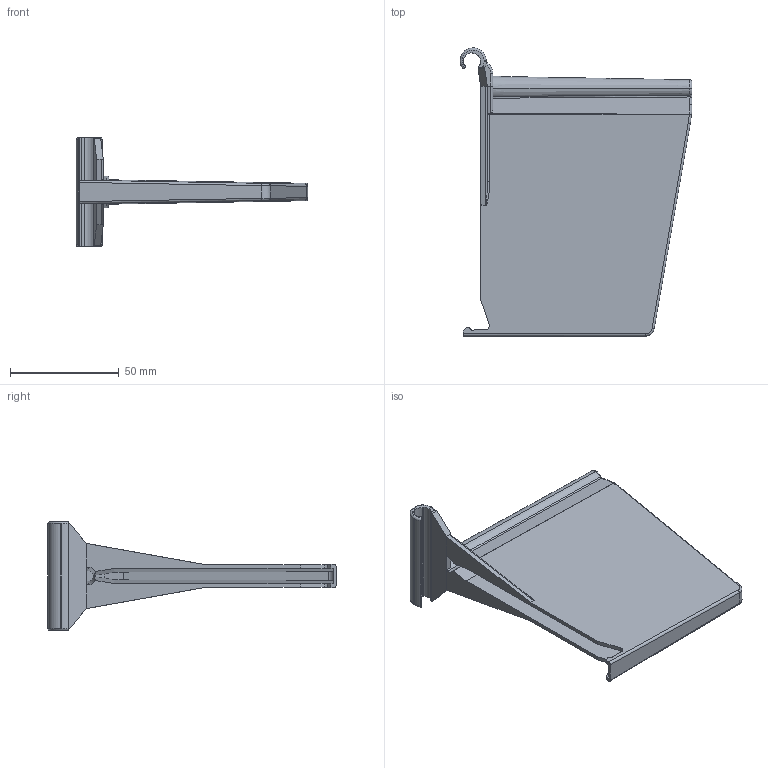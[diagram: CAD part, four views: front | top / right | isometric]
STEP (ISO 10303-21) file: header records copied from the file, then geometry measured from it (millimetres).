
FILE_DESCRIPTION (( 'STEP AP214' ), '1' );
FILE_NAME ('Divider - Smart Board Magic Optima.STEP', '2009-11-06T08:02:31', ( 'Waldinger Reinhard' ), ( 'Grass GmbH' ), 'SwSTEP 2.0', 'SolidWorks 2009', '' );
FILE_SCHEMA (( 'AUTOMOTIVE_DESIGN' ));
Length unit declared in the file: millimetre
Products named in the file (1): Divider - Smart Board Magic Optima
Bounding box: 106.55 x 132.41 x 50 mm (x, y, z)
Volume: 44049.2 mm3; surface area: 49806.2 mm2
Topology: 1 solids, 1 shells, 137 faces, 361 edges, 226 vertices
Faces by surface type: cylinder 53, plane 47, bspline 14, torus 13, cone 6, sphere 4
Entity records: 5541 total; most frequent: CARTESIAN_POINT 2326, ORIENTED_EDGE 722, DIRECTION 622, EDGE_CURVE 361, AXIS2_PLACEMENT_3D 230, VERTEX_POINT 226, LINE 162, VECTOR 162
